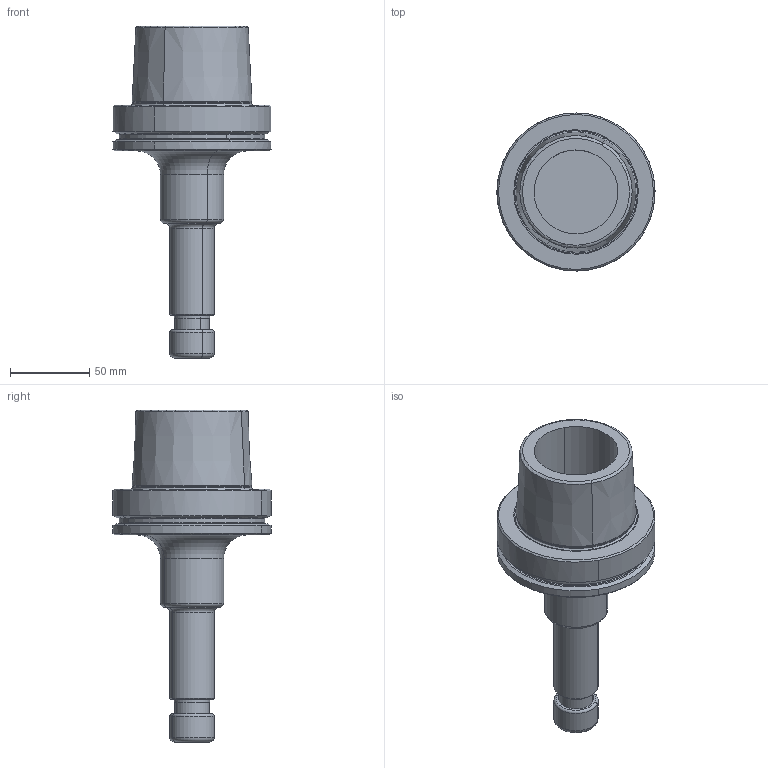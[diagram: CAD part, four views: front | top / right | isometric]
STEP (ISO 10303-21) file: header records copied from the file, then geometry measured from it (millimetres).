
FILE_DESCRIPTION(('CATIA V5 STEP','CAx-IF Rec.Pracs.--- Model Styling and Organization---1.2---2011-12-15'),'2;1');
FILE_NAME('\\nas01\drv1\utils\eitdev\rte\eit\transmagicconvert\db\out\635922543168689060\4561220 -L-B.stp','2016-02-28T09:05:30+00:00',('none'),('none'),'CATIA Version 5 Release 21 SP 5 (IN-10)','CATIA V5 STEP AP214','none');
FILE_SCHEMA(('AUTOMOTIVE_DESIGN { 1 0 10303 214 1 1 1 1 }'));
Length unit declared in the file: millimetre
Products named in the file (1): HSK A 100 ER16X160
Bounding box: 99.98 x 100 x 210 mm (x, y, z)
Volume: 405740.7 mm3; surface area: 61070.5 mm2
Topology: 1 solids, 1 shells, 81 faces, 210 edges, 139 vertices
Faces by surface type: cylinder 26, torus 24, cone 20, plane 11
Entity records: 2374 total; most frequent: CARTESIAN_POINT 540, ORIENTED_EDGE 416, DIRECTION 286, EDGE_CURVE 208, AXIS2_PLACEMENT_3D 193, CIRCLE 144, VERTEX_POINT 139, EDGE_LOOP 91
